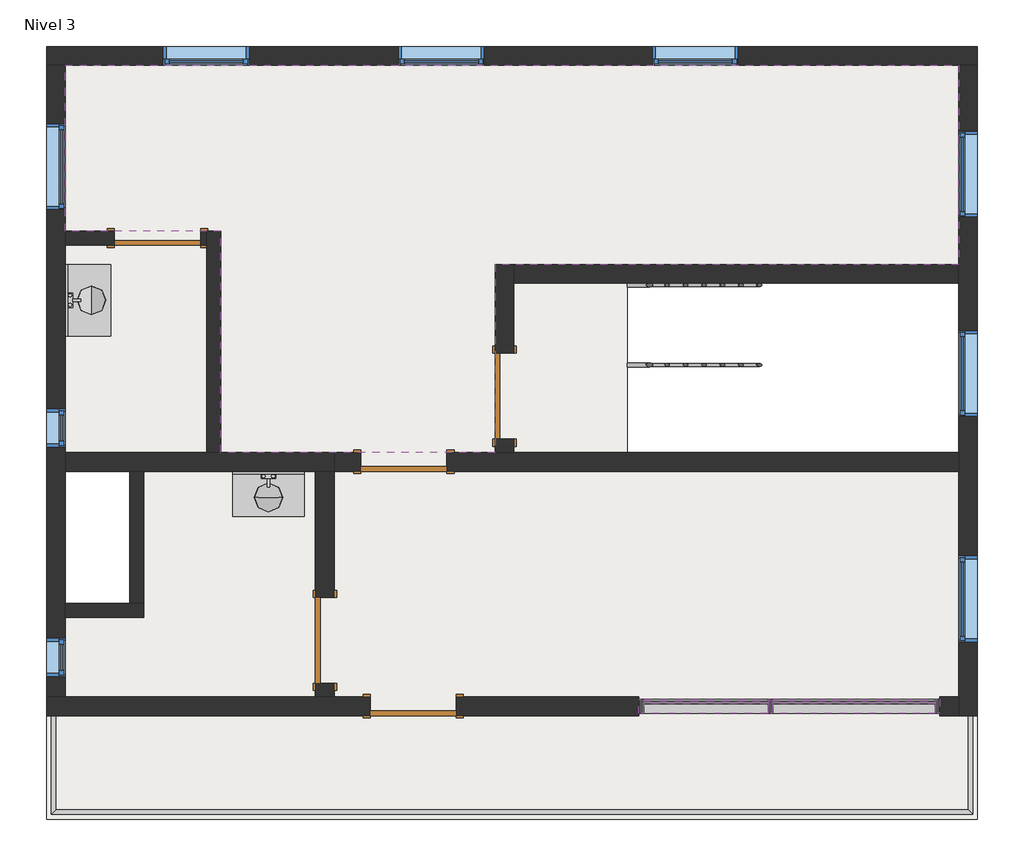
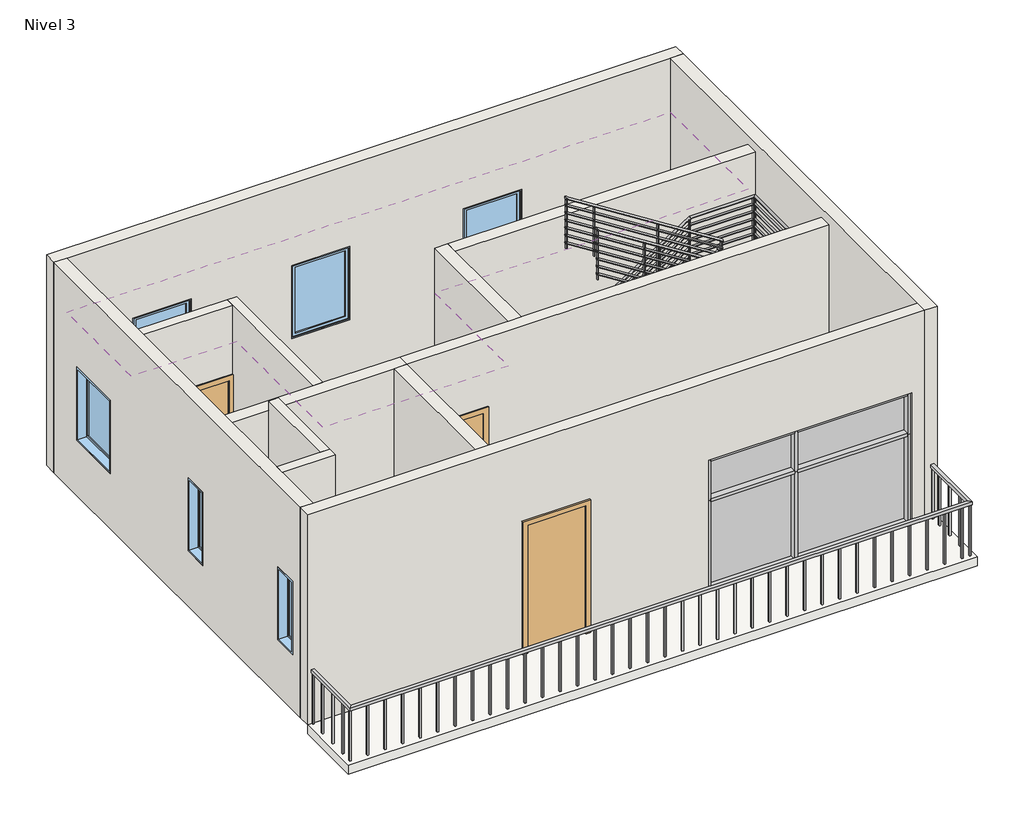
# One storey, incomplete: 13 walls, 12 members, 9 windows, 5 doors, 4 plates, 3 railings, 2 flow terminals, 1 covering, 1 slab.
"""IFC4 building model written with IfcOpenShell, lengths in millimetres."""

from ifc_helpers import new_model, si_unit, frame, origin, place, context, project, spatial, polyline, outline, extrude, faceted_brep, transform, mapped, element, save
from components import m_single_flush_0915_x_2134mm_6a9e8738, m_single_flush_0915_x_2134mm_727434cd, m_single_flush_0915_x_2134mm_f3d7f739, m_lavatory_vanity_760_mmx455_mm_private_5dea4168, rectangular_mullion_50mm_x_150mm_8ba0571e, rectangular_mullion_50mm_x_150mm_225b9777, rectangular_mullion_50mm_x_150mm_1a3ebe9d, rectangular_mullion_50mm_x_150mm_3dc27107, rectangular_mullion_50mm_x_150mm_964d2677, rectangular_mullion_50mm_x_150mm_461a195c, rectangular_mullion_50mm_x_150mm_84253eda, rectangular_mullion_50mm_x_150mm_205d2b36, system_panel_glazed_5259bb3b, system_panel_glazed_2a0213e2, system_panel_glazed_1ff09d7a, system_panel_glazed_c62e4b68, railing_900mm_pipe_946b6890, railing_900mm_pipe_91a3f817, railing_900mm_rectangular_6c18ea76, m_fixed_0406_x_1220mm_71a1fb2c, m_fixed_0915_x_1220mm_488fb2fb, m_fixed_0915_x_1220mm_5cd8e2eb

model = new_model("IFC4")

# Units and contexts
model_context = context("Model", 3, world=origin())
ifc_project = project(units=[si_unit("LENGTHUNIT", "METRE", prefix="MILLI")], contexts=[model_context])

# Site, building, storey
site = spatial("IfcSite", under=ifc_project)
building = spatial("IfcBuilding", under=site)
storey = spatial("IfcBuildingStorey", under=building, Name="Nivel 3", Elevation=7000.0)

# Covering
placement = place(None, origin())
element("IfcCovering", 1, ObjectType="600 x 1200mm grid", at=placement, inside=storey, context=model_context, shape_type="SweptSolid", body=[
    extrude(outline(polyline([(3069.2181942, -3352.0090589), (3904.2181942, -3352.0090589), (3904.2181942, -1797.0090589), (5729.2181942, -1797.0090589), (5729.2181942, -4197.0090589), (3069.2181942, -4197.0090589), (3069.2181942, -3352.0090589)])), frame((0.0, 0.0, 9600.0), z_axis=(0.0, 0.0, 1.0), x_axis=(1.0, 0.0, 0.0)), (0.0, 0.0, 1.0), 52.0),
    extrude(outline(polyline([(12569.2181942, 2522.9909411), (12569.2181942, 404.5332903), (7639.6809687, 404.5332903), (7639.6809687, -1597.0090589), (4724.2181942, -1597.0090589), (4724.2181942, 757.9909411), (3069.2181942, 757.9909411), (3069.2181942, 2522.9909411), (12569.2181942, 2522.9909411)])), frame((0.0, 0.0, 9600.0), z_axis=(0.0, 0.0, 1.0), x_axis=(1.0, 0.0, 0.0)), (0.0, 0.0, 1.0), 52.0),
    extrude(outline(polyline([(5929.2181942, -4197.0090589), (5929.2181942, -1797.0090589), (12569.2181942, -1797.0090589), (12569.2181942, -4197.0090589), (5929.2181942, -4197.0090589)])), frame((0.0, 0.0, 9600.0), z_axis=(0.0, 0.0, 1.0), x_axis=(1.0, 0.0, 0.0)), (0.0, 0.0, 1.0), 52.0),
    extrude(outline(polyline([(3069.2181942, -1597.0090589), (3069.2181942, 607.9909411), (4574.2181942, 607.9909411), (4574.2181942, -1597.0090589), (3069.2181942, -1597.0090589)])), frame((0.0, 0.0, 9600.0), z_axis=(0.0, 0.0, 1.0), x_axis=(1.0, 0.0, 0.0)), (0.0, 0.0, 1.0), 52.0),
])

# Doors
m_single_flush_0915_x_2134mm_shape = m_single_flush_0915_x_2134mm_6a9e8738(model_context)
element("IfcDoor", 2, ObjectType="M_Single-Flush : 0915 x 2134mm", at=placement, inside=storey, context=model_context, shape_type="MappedRepresentation", body=[
    mapped(m_single_flush_0915_x_2134mm_shape, transform((6769.2181942, -4297.0090589, 7000.0), x_axis=(-1.0, 0.0, 0.0), y_axis=(0.0, -1.0, 0.0), z_axis=(0.0, 0.0, 1.0))),
])
element("IfcDoor", 3, ObjectType="M_Single-Flush : 0915 x 2134mm", at=placement, inside=storey, context=model_context, shape_type="MappedRepresentation", body=[
    mapped(m_single_flush_0915_x_2134mm_shape, transform((6669.2181942, -1697.0090589, 7000.0), x_axis=(-1.0, 0.0, 0.0), y_axis=(0.0, -1.0, 0.0), z_axis=(0.0, 0.0, 1.0))),
])
m_single_flush_0915_x_2134mm_2_shape = m_single_flush_0915_x_2134mm_727434cd(model_context)
element("IfcDoor", 4, ObjectType="M_Single-Flush : 0915 x 2134mm", at=placement, inside=storey, context=model_context, shape_type="MappedRepresentation", body=[
    mapped(m_single_flush_0915_x_2134mm_2_shape, transform((5829.2181942, -3597.0090589, 7000.0), x_axis=(0.0, -1.0, 0.0), y_axis=(1.0, 0.0, 0.0), z_axis=(0.0, 0.0, 1.0))),
])
element("IfcDoor", 5, ObjectType="M_Single-Flush : 0915 x 2134mm", at=placement, inside=storey, context=model_context, shape_type="MappedRepresentation", body=[
    mapped(m_single_flush_0915_x_2134mm_2_shape, transform((7739.6809687, -997.0090589, 7000.0), x_axis=(0.0, -1.0, 0.0), y_axis=(1.0, 0.0, 0.0), z_axis=(0.0, 0.0, 1.0))),
])
m_single_flush_0915_x_2134mm_3_shape = m_single_flush_0915_x_2134mm_f3d7f739(model_context)
element("IfcDoor", 6, ObjectType="M_Single-Flush : 0915 x 2134mm", at=placement, inside=storey, context=model_context, shape_type="MappedRepresentation", body=[
    mapped(m_single_flush_0915_x_2134mm_3_shape, transform((4049.2181942, 682.9909411, 7000.0), x_axis=(1.0, 0.0, 0.0), y_axis=(0.0, 1.0, 0.0), z_axis=(0.0, 0.0, 1.0))),
])

# Flow terminals
m_lavatory_vanity_760_mmx455_mm_private_shape = m_lavatory_vanity_760_mmx455_mm_private_5dea4168(model_context)
element("IfcFlowTerminal", 7, ObjectType="M_Lavatory - Vanity : 760 mmx455 mm - Private", at=placement, inside=storey, context=model_context, shape_type="MappedRepresentation", body=[
    mapped(m_lavatory_vanity_760_mmx455_mm_private_shape, transform((5229.2181942, -1797.0090589, 7000.0), x_axis=(0.0, -1.0, 0.0), y_axis=(1.0, 0.0, 0.0), z_axis=(0.0, 0.0, 1.0))),
])
element("IfcFlowTerminal", 8, ObjectType="M_Lavatory - Vanity : 760 mmx455 mm - Private", at=placement, inside=storey, context=model_context, shape_type="MappedRepresentation", body=[
    mapped(m_lavatory_vanity_760_mmx455_mm_private_shape, transform((3069.2181942, 22.9909411, 7000.0), x_axis=(1.0, 0.0, 0.0), y_axis=(0.0, 1.0, 0.0), z_axis=(0.0, 0.0, 1.0))),
])

# Members
rectangular_mullion_50mm_x_150mm_shape = rectangular_mullion_50mm_x_150mm_8ba0571e(model_context)
element("IfcMember", 9, ObjectType="Rectangular Mullion : 50mm x 150mm", at=placement, inside=storey, context=model_context, shape_type="MappedRepresentation", body=[
    mapped(rectangular_mullion_50mm_x_150mm_shape, transform((10594.2181939, -4297.0090589, 9200.0), x_axis=(0.0, 0.0, 1.0), y_axis=(0.0, 1.0, 0.0), z_axis=(-1.0, 0.0, 0.0))),
])
rectangular_mullion_50mm_x_150mm_2_shape = rectangular_mullion_50mm_x_150mm_225b9777(model_context)
element("IfcMember", 10, ObjectType="Rectangular Mullion : 50mm x 150mm", at=placement, inside=storey, context=model_context, shape_type="MappedRepresentation", body=[
    mapped(rectangular_mullion_50mm_x_150mm_2_shape, transform((10544.2181939, -4297.0090589, 7000.0), x_axis=(0.0, 0.0, -1.0), y_axis=(0.0, 1.0, 0.0), z_axis=(1.0, 0.0, 0.0))),
])
rectangular_mullion_50mm_x_150mm_3_shape = rectangular_mullion_50mm_x_150mm_1a3ebe9d(model_context)
element("IfcMember", 11, ObjectType="Rectangular Mullion : 50mm x 150mm", at=placement, inside=storey, context=model_context, shape_type="MappedRepresentation", body=[
    mapped(rectangular_mullion_50mm_x_150mm_3_shape, transform((9219.2181942, -4297.0090589, 8500.0), x_axis=(0.0, 0.0, 1.0), y_axis=(0.0, 1.0, 0.0), z_axis=(-1.0, 0.0, 0.0))),
])
rectangular_mullion_50mm_x_150mm_4_shape = rectangular_mullion_50mm_x_150mm_3dc27107(model_context)
element("IfcMember", 12, ObjectType="Rectangular Mullion : 50mm x 150mm", at=placement, inside=storey, context=model_context, shape_type="MappedRepresentation", body=[
    mapped(rectangular_mullion_50mm_x_150mm_4_shape, transform((10594.2181939, -4297.0090589, 8500.0), x_axis=(0.0, 0.0, 1.0), y_axis=(0.0, 1.0, 0.0), z_axis=(-1.0, 0.0, 0.0))),
])
rectangular_mullion_50mm_x_150mm_5_shape = rectangular_mullion_50mm_x_150mm_964d2677(model_context)
element("IfcMember", 13, ObjectType="Rectangular Mullion : 50mm x 150mm", at=placement, inside=storey, context=model_context, shape_type="MappedRepresentation", body=[
    mapped(rectangular_mullion_50mm_x_150mm_5_shape, transform((10569.2181939, -4297.0090589, 7000.0), x_axis=(-1.0, 0.0, 0.0), y_axis=(0.0, 1.0, 0.0), z_axis=(0.0, 0.0, -1.0))),
])
element("IfcMember", 14, ObjectType="Rectangular Mullion : 50mm x 150mm", at=placement, inside=storey, context=model_context, shape_type="MappedRepresentation", body=[
    mapped(rectangular_mullion_50mm_x_150mm_shape, transform((12319.2181942, -4297.0090589, 7000.0), x_axis=(0.0, 0.0, -1.0), y_axis=(0.0, 1.0, 0.0), z_axis=(1.0, 0.0, 0.0))),
])
element("IfcMember", 15, ObjectType="Rectangular Mullion : 50mm x 150mm", at=placement, inside=storey, context=model_context, shape_type="MappedRepresentation", body=[
    mapped(rectangular_mullion_50mm_x_150mm_2_shape, transform((9219.2181942, -4297.0090589, 9200.0), x_axis=(0.0, 0.0, 1.0), y_axis=(0.0, 1.0, 0.0), z_axis=(-1.0, 0.0, 0.0))),
])
rectangular_mullion_50mm_x_150mm_6_shape = rectangular_mullion_50mm_x_150mm_461a195c(model_context)
element("IfcMember", 16, ObjectType="Rectangular Mullion : 50mm x 150mm", at=placement, inside=storey, context=model_context, shape_type="MappedRepresentation", body=[
    mapped(rectangular_mullion_50mm_x_150mm_6_shape, transform((12369.2181942, -4297.0090589, 8500.0), x_axis=(1.0, 0.0, 0.0), y_axis=(0.0, 1.0, 0.0), z_axis=(0.0, 0.0, 1.0))),
])
element("IfcMember", 17, ObjectType="Rectangular Mullion : 50mm x 150mm", at=placement, inside=storey, context=model_context, shape_type="MappedRepresentation", body=[
    mapped(rectangular_mullion_50mm_x_150mm_6_shape, transform((9169.2181942, -4297.0090589, 7000.0), x_axis=(-1.0, 0.0, 0.0), y_axis=(0.0, 1.0, 0.0), z_axis=(0.0, 0.0, -1.0))),
])
rectangular_mullion_50mm_x_150mm_7_shape = rectangular_mullion_50mm_x_150mm_84253eda(model_context)
element("IfcMember", 18, ObjectType="Rectangular Mullion : 50mm x 150mm", at=placement, inside=storey, context=model_context, shape_type="MappedRepresentation", body=[
    mapped(rectangular_mullion_50mm_x_150mm_7_shape, transform((10569.2181939, -4297.0090589, 8500.0), x_axis=(-1.0, 0.0, 0.0), y_axis=(0.0, 1.0, 0.0), z_axis=(0.0, 0.0, -1.0))),
])
rectangular_mullion_50mm_x_150mm_8_shape = rectangular_mullion_50mm_x_150mm_205d2b36(model_context)
element("IfcMember", 19, ObjectType="Rectangular Mullion : 50mm x 150mm", at=placement, inside=storey, context=model_context, shape_type="MappedRepresentation", body=[
    mapped(rectangular_mullion_50mm_x_150mm_8_shape, transform((9169.2181942, -4297.0090589, 8500.0), x_axis=(-1.0, 0.0, 0.0), y_axis=(0.0, 1.0, 0.0), z_axis=(0.0, 0.0, -1.0))),
])
element("IfcMember", 20, ObjectType="Rectangular Mullion : 50mm x 150mm", at=placement, inside=storey, context=model_context, shape_type="MappedRepresentation", body=[
    mapped(rectangular_mullion_50mm_x_150mm_8_shape, transform((12369.2181942, -4297.0090589, 9200.0), x_axis=(1.0, 0.0, 0.0), y_axis=(0.0, 1.0, 0.0), z_axis=(0.0, 0.0, 1.0))),
])

# Plates
system_panel_glazed_shape = system_panel_glazed_5259bb3b(model_context)
element("IfcPlate", 21, ObjectType="System Panel : Glazed", at=placement, inside=storey, context=model_context, shape_type="MappedRepresentation", body=[
    mapped(system_panel_glazed_shape, transform((11456.718194, -4297.0090589, 7050.0), x_axis=(-1.0, 0.0, 0.0), y_axis=(0.0, -1.0, 0.0), z_axis=(0.0, 0.0, 1.0))),
])
system_panel_glazed_2_shape = system_panel_glazed_2a0213e2(model_context)
element("IfcPlate", 22, ObjectType="System Panel : Glazed", at=placement, inside=storey, context=model_context, shape_type="MappedRepresentation", body=[
    mapped(system_panel_glazed_2_shape, transform((9881.718194, -4297.0090589, 7050.0), x_axis=(-1.0, 0.0, 0.0), y_axis=(0.0, -1.0, 0.0), z_axis=(0.0, 0.0, 1.0))),
])
system_panel_glazed_3_shape = system_panel_glazed_1ff09d7a(model_context)
element("IfcPlate", 23, ObjectType="System Panel : Glazed", at=placement, inside=storey, context=model_context, shape_type="MappedRepresentation", body=[
    mapped(system_panel_glazed_3_shape, transform((11456.718194, -4297.0090589, 8525.0), x_axis=(-1.0, 0.0, 0.0), y_axis=(0.0, -1.0, 0.0), z_axis=(0.0, 0.0, 1.0))),
])
system_panel_glazed_4_shape = system_panel_glazed_c62e4b68(model_context)
element("IfcPlate", 24, ObjectType="System Panel : Glazed", at=placement, inside=storey, context=model_context, shape_type="MappedRepresentation", body=[
    mapped(system_panel_glazed_4_shape, transform((9881.718194, -4297.0090589, 8525.0), x_axis=(-1.0, 0.0, 0.0), y_axis=(0.0, -1.0, 0.0), z_axis=(0.0, 0.0, 1.0))),
])

# Railings
railing_900mm_pipe_shape = railing_900mm_pipe_946b6890(model_context)
element("IfcRailing", 25, ObjectType="900mm Pipe", at=placement, inside=storey, context=model_context, shape_type="MappedRepresentation", body=[
    mapped(railing_900mm_pipe_shape, transform((0.0, 0.0, 0.0), x_axis=(1.0, 0.0, 0.0), y_axis=(0.0, 1.0, 0.0), z_axis=(0.0, 0.0, 1.0))),
])
railing_900mm_pipe_2_shape = railing_900mm_pipe_91a3f817(model_context)
element("IfcRailing", 26, ObjectType="900mm Pipe", at=placement, inside=storey, context=model_context, shape_type="MappedRepresentation", body=[
    mapped(railing_900mm_pipe_2_shape, transform((0.0, 0.0, 0.0), x_axis=(1.0, 0.0, 0.0), y_axis=(0.0, 1.0, 0.0), z_axis=(0.0, 0.0, 1.0))),
])
railing_900mm_rectangular_shape = railing_900mm_rectangular_6c18ea76(model_context)
element("IfcRailing", 27, ObjectType="900mm Rectangular", at=placement, inside=storey, context=model_context, shape_type="MappedRepresentation", body=[
    mapped(railing_900mm_rectangular_shape, transform((0.0, 0.0, 0.0), x_axis=(1.0, 0.0, 0.0), y_axis=(0.0, 1.0, 0.0), z_axis=(0.0, 0.0, 1.0))),
])

# Slab
element("IfcSlab", 28, ObjectType="Generic Floor - 400mm", at=placement, inside=storey, context=model_context, shape_type="SweptSolid", body=[
    extrude(outline(polyline([(12769.2181942, -5497.0090589), (2869.2181942, -5497.0090589), (2869.2181942, -4397.0090589), (3069.2181942, -4397.0090589), (3069.2181942, -3202.0090589), (3754.2181942, -3202.0090589), (3754.2181942, -1797.0090589), (3069.2181942, -1797.0090589), (3069.2181942, 2522.9909411), (12569.2181942, 2522.9909411), (12569.2181942, 204.5332903), (9044.2181942, 204.5332903), (9044.2181942, -1597.0090589), (12569.2181942, -1597.0090589), (12569.2181942, -4397.0090589), (12769.2181942, -4397.0090589), (12769.2181942, -5497.0090589)])), frame((0.0, 0.0, 6850.0), z_axis=(0.0, 0.0, 1.0), x_axis=(1.0, 0.0, 0.0)), (0.0, 0.0, 1.0), 150.0),
])

# Walls
element("IfcWall", 29, ObjectType="Generic - 150mm", at=placement, inside=storey, context=model_context, shape_type="SweptSolid", body=[
    extrude(outline(polyline([(3754.2181942, -3202.0090589), (3754.2181942, -1797.0090589), (3904.2181942, -1797.0090589), (3904.2181942, -3202.0090589), (3754.2181942, -3202.0090589)])), frame((0.0, 0.0, 7000.0), z_axis=(0.0, 0.0, 1.0), x_axis=(1.0, 0.0, 0.0)), (0.0, 0.0, 1.0), 3500.0),
])
element("IfcWall", 30, ObjectType="Generic - 150mm", at=placement, inside=storey, context=model_context, shape_type="Brep", body=[
    faceted_brep([(4724.2181942, -1597.0090589, 7000.0), (4724.2181942, 757.9909411, 7000.0), (4724.2181942, 757.9909411, 10350.0), (4724.2181942, -1597.0090589, 10350.0), (4574.2181942, -1597.0090589, 7000.0), (4574.2181942, -1597.0090589, 10350.0), (4574.2181942, 607.9909411, 10350.0), (4574.2181942, 757.9909411, 10350.0), (4574.2181942, 757.9909411, 7000.0), (4574.2181942, 607.9909411, 7000.0)], [[[0, 1, 2, 3]], [[4, 5, 6, 7, 8, 9]], [[1, 0, 4, 9, 8]], [[3, 2, 7, 6, 5]], [[2, 1, 8, 7]], [[0, 3, 5, 4]]]),
])
element("IfcWall", 31, ObjectType="Generic - 150mm", at=placement, inside=storey, context=model_context, shape_type="SweptSolid", body=[
    extrude(outline(polyline([(9134.0, 4506.7181942), (7000.0, 4506.7181942), (7000.0, 4574.2181942), (10350.0, 4574.2181942), (10350.0, 3069.2181942), (7000.0, 3069.2181942), (7000.0, 3591.7181942), (9134.0, 3591.7181942), (9134.0, 4506.7181942)])), frame((0.0, 607.9909411, 0.0), z_axis=(0.0, 1.0, 0.0), x_axis=(0.0, 0.0, 1.0)), (0.0, 0.0, 1.0), 150.0),
])
element("IfcWall", 32, ObjectType="Generic - 150mm", at=placement, inside=storey, context=model_context, shape_type="Brep", body=[
    faceted_brep([(3069.2181942, -3352.0090589, 7000.0), (3904.2181942, -3352.0090589, 7000.0), (3904.2181942, -3352.0090589, 10500.0), (3069.2181942, -3352.0090589, 10500.0), (3069.2181942, -3202.0090589, 7000.0), (3069.2181942, -3202.0090589, 10500.0), (3754.2181942, -3202.0090589, 10500.0), (3904.2181942, -3202.0090589, 10500.0), (3904.2181942, -3202.0090589, 7000.0), (3754.2181942, -3202.0090589, 7000.0)], [[[0, 1, 2, 3]], [[4, 5, 6, 7, 8, 9]], [[1, 0, 4, 9, 8]], [[3, 2, 7, 6, 5]], [[0, 3, 5, 4]], [[2, 1, 8, 7]]]),
])
element("IfcWall", 33, ObjectType="Generic - 200mm", at=placement, inside=storey, context=model_context, shape_type="Brep", body=[
    faceted_brep([(12769.2181942, 2722.9909411, 7000.0), (2869.2181942, 2722.9909411, 7000.0), (2869.2181942, 2722.9909411, 10500.0), (12769.2181942, 2722.9909411, 10500.0), (9311.7181942, 2722.9909411, 7915.0), (10226.7181942, 2722.9909411, 7915.0), (10226.7181942, 2722.9909411, 9135.0), (9311.7181942, 2722.9909411, 9135.0), (6611.7181942, 2722.9909411, 7915.0), (7526.7181942, 2722.9909411, 7915.0), (7526.7181942, 2722.9909411, 9135.0), (6611.7181942, 2722.9909411, 9135.0), (5026.7181942, 2722.9909411, 7915.0), (5026.7181942, 2722.9909411, 9135.0), (4111.7181942, 2722.9909411, 9135.0), (4111.7181942, 2722.9909411, 7915.0), (12769.2181942, 2522.9909411, 7000.0), (12769.2181942, 2522.9909411, 10500.0), (12569.2181942, 2522.9909411, 10500.0), (3069.2181942, 2522.9909411, 10500.0), (2869.2181942, 2522.9909411, 10500.0), (2869.2181942, 2522.9909411, 7000.0), (3069.2181942, 2522.9909411, 7000.0), (12569.2181942, 2522.9909411, 7000.0), (9311.7181942, 2522.9909411, 7915.0), (9311.7181942, 2522.9909411, 9135.0), (10226.7181942, 2522.9909411, 9135.0), (10226.7181942, 2522.9909411, 7915.0), (6611.7181942, 2522.9909411, 7915.0), (6611.7181942, 2522.9909411, 9135.0), (7526.7181942, 2522.9909411, 9135.0), (7526.7181942, 2522.9909411, 7915.0), (5026.7181942, 2522.9909411, 7915.0), (4111.7181942, 2522.9909411, 7915.0), (4111.7181942, 2522.9909411, 9135.0), (5026.7181942, 2522.9909411, 9135.0)], [[[0, 1, 2, 3], [4, 5, 6, 7], [8, 9, 10, 11], [12, 13, 14, 15]], [[16, 17, 18, 19, 20, 21, 22, 23], [24, 25, 26, 27], [28, 29, 30, 31], [32, 33, 34, 35]], [[1, 0, 16, 23, 22, 21]], [[3, 2, 20, 19, 18, 17]], [[0, 3, 17, 16]], [[25, 24, 4, 7]], [[26, 25, 7, 6]], [[27, 26, 6, 5]], [[24, 27, 5, 4]], [[29, 28, 8, 11]], [[30, 29, 11, 10]], [[31, 30, 10, 9]], [[28, 31, 9, 8]], [[13, 12, 32, 35]], [[14, 13, 35, 34]], [[15, 14, 34, 33]], [[12, 15, 33, 32]], [[2, 1, 21, 20]]]),
])
element("IfcWall", 34, ObjectType="Generic - 200mm", at=placement, inside=storey, context=model_context, shape_type="Brep", body=[
    faceted_brep([(12769.2181942, -4397.0090589, 7000.0), (12769.2181942, 2522.9909411, 7000.0), (12769.2181942, 2522.9909411, 10500.0), (12769.2181942, -4397.0090589, 10500.0), (12769.2181942, -3614.5090589, 7915.0), (12769.2181942, -3614.5090589, 9135.0), (12769.2181942, -2699.5090589, 9135.0), (12769.2181942, -2699.5090589, 7915.0), (12769.2181942, -1214.5090589, 7915.0), (12769.2181942, -1214.5090589, 9135.0), (12769.2181942, -299.5090589, 9135.0), (12769.2181942, -299.5090589, 7915.0), (12769.2181942, 905.4909411, 7915.0), (12769.2181942, 905.4909411, 9135.0), (12769.2181942, 1820.4909411, 9135.0), (12769.2181942, 1820.4909411, 7915.0), (12569.2181942, -4397.0090589, 7000.0), (12569.2181942, -4397.0090589, 10500.0), (12569.2181942, -4197.0090589, 10500.0), (12569.2181942, 2522.9909411, 10500.0), (12569.2181942, 2522.9909411, 7000.0), (12569.2181942, 404.5332903, 7000.0), (12569.2181942, 204.5332903, 7000.0), (12569.2181942, -1597.0090589, 7000.0), (12569.2181942, -1797.0090589, 7000.0), (12569.2181942, -4197.0090589, 7000.0), (12569.2181942, -3614.5090589, 7915.0), (12569.2181942, -2699.5090589, 7915.0), (12569.2181942, -2699.5090589, 9135.0), (12569.2181942, -3614.5090589, 9135.0), (12569.2181942, -1214.5090589, 7915.0), (12569.2181942, -299.5090589, 7915.0), (12569.2181942, -299.5090589, 9135.0), (12569.2181942, -1214.5090589, 9135.0), (12569.2181942, 905.4909411, 7915.0), (12569.2181942, 1820.4909411, 7915.0), (12569.2181942, 1820.4909411, 9135.0), (12569.2181942, 905.4909411, 9135.0)], [[[0, 1, 2, 3], [4, 5, 6, 7], [8, 9, 10, 11], [12, 13, 14, 15]], [[16, 17, 18, 19, 20, 21, 22, 23, 24, 25], [26, 27, 28, 29], [30, 31, 32, 33], [34, 35, 36, 37]], [[1, 0, 16, 25, 24, 23, 22, 21, 20]], [[3, 2, 19, 18, 17]], [[0, 3, 17, 16]], [[2, 1, 20, 19]], [[5, 4, 26, 29]], [[6, 5, 29, 28]], [[7, 6, 28, 27]], [[4, 7, 27, 26]], [[9, 8, 30, 33]], [[10, 9, 33, 32]], [[11, 10, 32, 31]], [[8, 11, 31, 30]], [[13, 12, 34, 37]], [[14, 13, 37, 36]], [[15, 14, 36, 35]], [[12, 15, 35, 34]]]),
])
element("IfcWall", 35, ObjectType="Generic - 200mm", at=placement, inside=storey, context=model_context, shape_type="Brep", body=[
    faceted_brep([(2869.2181942, -4397.0090589, 7000.0), (6311.7181942, -4397.0090589, 7000.0), (6311.7181942, -4397.0090589, 9134.0), (7226.7181942, -4397.0090589, 9134.0), (7226.7181942, -4397.0090589, 7000.0), (9169.2181942, -4397.0090589, 7000.0), (9169.2181942, -4397.0090589, 9200.0), (12369.2181942, -4397.0090589, 9200.0), (12369.2181942, -4397.0090589, 7000.0), (12569.2181942, -4397.0090589, 7000.0), (12569.2181942, -4397.0090589, 10500.0), (2869.2181942, -4397.0090589, 10500.0), (6311.7181942, -4197.0090589, 9134.0), (6311.7181942, -4197.0090589, 7000.0), (5929.2181942, -4197.0090589, 7000.0), (5729.2181942, -4197.0090589, 7000.0), (3069.2181942, -4197.0090589, 7000.0), (2869.2181942, -4197.0090589, 7000.0), (2869.2181942, -4197.0090589, 10500.0), (3069.2181942, -4197.0090589, 10500.0), (12569.2181942, -4197.0090589, 10500.0), (12569.2181942, -4197.0090589, 7000.0), (12369.2181942, -4197.0090589, 7000.0), (12369.2181942, -4197.0090589, 9200.0), (9169.2181942, -4197.0090589, 9200.0), (9169.2181942, -4197.0090589, 7000.0), (7226.7181942, -4197.0090589, 7000.0), (7226.7181942, -4197.0090589, 9134.0)], [[[0, 1, 2, 3, 4, 5, 6, 7, 8, 9, 10, 11]], [[12, 13, 14, 15, 16, 17, 18, 19, 20, 21, 22, 23, 24, 25, 26, 27]], [[21, 9, 8, 22]], [[26, 25, 5, 4]], [[17, 16, 15, 14, 13, 1, 0]], [[11, 10, 20, 19, 18]], [[10, 9, 21, 20]], [[0, 11, 18, 17]], [[7, 23, 22, 8]], [[23, 7, 6, 24]], [[24, 6, 5, 25]], [[2, 1, 13, 12]], [[3, 2, 12, 27]], [[4, 3, 27, 26]]]),
])
element("IfcWall", 36, ObjectType="Generic - 200mm", at=placement, inside=storey, context=model_context, shape_type="Brep", body=[
    faceted_brep([(2869.2181942, 2522.9909411, 7000.0), (2869.2181942, -4197.0090589, 7000.0), (2869.2181942, -4197.0090589, 10500.0), (2869.2181942, 2522.9909411, 10500.0), (2869.2181942, -1134.0090589, 7915.0), (2869.2181942, -1134.0090589, 9135.0), (2869.2181942, -1540.0090589, 9135.0), (2869.2181942, -1540.0090589, 7915.0), (2869.2181942, 1900.4909411, 7915.0), (2869.2181942, 1900.4909411, 9135.0), (2869.2181942, 985.4909411, 9135.0), (2869.2181942, 985.4909411, 7915.0), (2869.2181942, -3574.0090589, 7915.0), (2869.2181942, -3574.0090589, 9135.0), (2869.2181942, -3980.0090589, 9135.0), (2869.2181942, -3980.0090589, 7915.0), (3069.2181942, 2522.9909411, 7000.0), (3069.2181942, 2522.9909411, 10500.0), (3069.2181942, -3202.0090589, 10500.0), (3069.2181942, -3352.0090589, 10500.0), (3069.2181942, -4197.0090589, 10500.0), (3069.2181942, -4197.0090589, 7000.0), (3069.2181942, -3352.0090589, 7000.0), (3069.2181942, -3202.0090589, 7000.0), (3069.2181942, -1797.0090589, 7000.0), (3069.2181942, -1597.0090589, 7000.0), (3069.2181942, 607.9909411, 7000.0), (3069.2181942, 757.9909411, 7000.0), (3069.2181942, -1134.0090589, 7915.0), (3069.2181942, -1540.0090589, 7915.0), (3069.2181942, -1540.0090589, 9135.0), (3069.2181942, -1134.0090589, 9135.0), (3069.2181942, 1900.4909411, 7915.0), (3069.2181942, 985.4909411, 7915.0), (3069.2181942, 985.4909411, 9135.0), (3069.2181942, 1900.4909411, 9135.0), (3069.2181942, -3574.0090589, 7915.0), (3069.2181942, -3980.0090589, 7915.0), (3069.2181942, -3980.0090589, 9135.0), (3069.2181942, -3574.0090589, 9135.0)], [[[0, 1, 2, 3], [4, 5, 6, 7], [8, 9, 10, 11], [12, 13, 14, 15]], [[16, 17, 18, 19, 20, 21, 22, 23, 24, 25, 26, 27], [28, 29, 30, 31], [32, 33, 34, 35], [36, 37, 38, 39]], [[1, 0, 16, 27, 26, 25, 24, 23, 22, 21]], [[3, 2, 20, 19, 18, 17]], [[0, 3, 17, 16]], [[2, 1, 21, 20]], [[5, 4, 28, 31]], [[6, 5, 31, 30]], [[7, 6, 30, 29]], [[4, 7, 29, 28]], [[9, 8, 32, 35]], [[10, 9, 35, 34]], [[11, 10, 34, 33]], [[8, 11, 33, 32]], [[13, 12, 36, 39]], [[14, 13, 39, 38]], [[15, 14, 38, 37]], [[12, 15, 37, 36]]]),
])
element("IfcWall", 37, ObjectType="Generic - 200mm", at=placement, inside=storey, context=model_context, shape_type="SweptSolid", body=[
    extrude(outline(polyline([(-4054.5090589, 9134.0), (-4054.5090589, 7000.0), (-4197.0090589, 7000.0), (-4197.0090589, 10350.0), (-1797.0090589, 10350.0), (-1797.0090589, 7000.0), (-3139.5090589, 7000.0), (-3139.5090589, 9134.0), (-4054.5090589, 9134.0)])), frame((5729.2181942, 0.0, 0.0), z_axis=(1.0, 0.0, 0.0), x_axis=(0.0, 1.0, 0.0)), (0.0, 0.0, 1.0), 200.0),
])
element("IfcWall", 38, ObjectType="Generic - 200mm", at=placement, inside=storey, context=model_context, shape_type="Brep", body=[
    faceted_brep([(5929.2181942, -1597.0090589, 7000.0), (4724.2181942, -1597.0090589, 7000.0), (4574.2181942, -1597.0090589, 7000.0), (3069.2181942, -1597.0090589, 7000.0), (3069.2181942, -1597.0090589, 10350.0), (4574.2181942, -1597.0090589, 10350.0), (4724.2181942, -1597.0090589, 10350.0), (5929.2181942, -1597.0090589, 10350.0), (5929.2181942, -1797.0090589, 7000.0), (5929.2181942, -1797.0090589, 10350.0), (5729.2181942, -1797.0090589, 10350.0), (3069.2181942, -1797.0090589, 10350.0), (3069.2181942, -1797.0090589, 7000.0), (3754.2181942, -1797.0090589, 7000.0), (3904.2181942, -1797.0090589, 7000.0), (5729.2181942, -1797.0090589, 7000.0)], [[[0, 1, 2, 3, 4, 5, 6, 7]], [[8, 9, 10, 11, 12, 13, 14, 15]], [[3, 2, 1, 0, 8, 15, 14, 13, 12]], [[7, 6, 5, 4, 11, 10, 9]], [[4, 3, 12, 11]], [[0, 7, 9, 8]]]),
])
element("IfcWall", 39, ObjectType="Generic - 200mm", at=placement, inside=storey, context=model_context, shape_type="Brep", body=[
    faceted_brep([(6211.7181942, -1597.0090589, 9134.0), (6211.7181942, -1597.0090589, 7000.0), (5929.2181942, -1597.0090589, 7000.0), (5929.2181942, -1597.0090589, 10350.0), (7639.6809687, -1597.0090589, 10350.0), (7839.6809687, -1597.0090589, 10350.0), (12569.2181942, -1597.0090589, 10350.0), (12569.2181942, -1597.0090589, 7000.0), (7839.6809687, -1597.0090589, 7000.0), (7639.6809687, -1597.0090589, 7000.0), (7126.7181942, -1597.0090589, 7000.0), (7126.7181942, -1597.0090589, 9134.0), (5929.2181942, -1797.0090589, 7000.0), (6211.7181942, -1797.0090589, 7000.0), (6211.7181942, -1797.0090589, 9134.0), (7126.7181942, -1797.0090589, 9134.0), (7126.7181942, -1797.0090589, 7000.0), (12569.2181942, -1797.0090589, 7000.0), (12569.2181942, -1797.0090589, 10350.0), (5929.2181942, -1797.0090589, 10350.0)], [[[0, 1, 2, 3, 4, 5, 6, 7, 8, 9, 10, 11]], [[12, 13, 14, 15, 16, 17, 18, 19]], [[2, 1, 13, 12]], [[10, 9, 8, 7, 17, 16]], [[6, 5, 4, 3, 19, 18]], [[14, 13, 1, 0]], [[15, 14, 0, 11]], [[16, 15, 11, 10]], [[7, 6, 18, 17]], [[3, 2, 12, 19]]]),
])
element("IfcWall", 40, ObjectType="Generic - 200mm", at=placement, inside=storey, context=model_context, shape_type="SweptSolid", body=[
    extrude(outline(polyline([(7839.6809687, 404.5332903), (12569.2181942, 404.5332903), (12569.2181942, 204.5332903), (7839.6809687, 204.5332903), (7839.6809687, 404.5332903)])), frame((0.0, 0.0, 7000.0), z_axis=(0.0, 0.0, 1.0), x_axis=(1.0, 0.0, 0.0)), (0.0, 0.0, 1.0), 3350.0),
])
element("IfcWall", 41, ObjectType="Generic - 200mm", at=placement, inside=storey, context=model_context, shape_type="Brep", body=[
    faceted_brep([(7639.6809687, -1454.5090589, 9134.0), (7639.6809687, -1454.5090589, 7000.0), (7639.6809687, -1597.0090589, 7000.0), (7639.6809687, -1597.0090589, 10350.0), (7639.6809687, 404.5332903, 10350.0), (7639.6809687, 404.5332903, 7000.0), (7639.6809687, -539.5090589, 7000.0), (7639.6809687, -539.5090589, 9134.0), (7839.6809687, -1597.0090589, 7000.0), (7839.6809687, -1454.5090589, 7000.0), (7839.6809687, -1454.5090589, 9134.0), (7839.6809687, -539.5090589, 9134.0), (7839.6809687, -539.5090589, 7000.0), (7839.6809687, 204.5332903, 7000.0), (7839.6809687, 404.5332903, 7000.0), (7839.6809687, 404.5332903, 10350.0), (7839.6809687, 204.5332903, 10350.0), (7839.6809687, -1597.0090589, 10350.0)], [[[0, 1, 2, 3, 4, 5, 6, 7]], [[8, 9, 10, 11, 12, 13, 14, 15, 16, 17]], [[6, 5, 14, 13, 12]], [[2, 1, 9, 8]], [[4, 3, 17, 16, 15]], [[10, 9, 1, 0]], [[11, 10, 0, 7]], [[12, 11, 7, 6]], [[3, 2, 8, 17]], [[5, 4, 15, 14]]]),
])

# Windows
m_fixed_0406_x_1220mm_shape = m_fixed_0406_x_1220mm_71a1fb2c(model_context)
element("IfcWindow", 42, ObjectType="M_Fixed : 0406 x 1220mm", at=placement, inside=storey, context=model_context, shape_type="MappedRepresentation", body=[
    mapped(m_fixed_0406_x_1220mm_shape, transform((2956.2181942, -1337.0090589, 7000.0), x_axis=(0.0, -1.0, 0.0), y_axis=(1.0, 0.0, 0.0), z_axis=(0.0, 0.0, 1.0))),
])
element("IfcWindow", 43, ObjectType="M_Fixed : 0406 x 1220mm", at=placement, inside=storey, context=model_context, shape_type="MappedRepresentation", body=[
    mapped(m_fixed_0406_x_1220mm_shape, transform((2956.2181942, -3777.0090589, 7000.0), x_axis=(0.0, -1.0, 0.0), y_axis=(1.0, 0.0, 0.0), z_axis=(0.0, 0.0, 1.0))),
])
m_fixed_0915_x_1220mm_shape = m_fixed_0915_x_1220mm_488fb2fb(model_context)
element("IfcWindow", 44, ObjectType="M_Fixed : 0915 x 1220mm", at=placement, inside=storey, context=model_context, shape_type="MappedRepresentation", body=[
    mapped(m_fixed_0915_x_1220mm_shape, transform((12682.2181942, -3157.0090589, 7000.0), x_axis=(0.0, 1.0, 0.0), y_axis=(-1.0, 0.0, 0.0), z_axis=(0.0, 0.0, 1.0))),
])
element("IfcWindow", 45, ObjectType="M_Fixed : 0915 x 1220mm", at=placement, inside=storey, context=model_context, shape_type="MappedRepresentation", body=[
    mapped(m_fixed_0915_x_1220mm_shape, transform((12682.2181942, -757.0090589, 7000.0), x_axis=(0.0, 1.0, 0.0), y_axis=(-1.0, 0.0, 0.0), z_axis=(0.0, 0.0, 1.0))),
])
element("IfcWindow", 46, ObjectType="M_Fixed : 0915 x 1220mm", at=placement, inside=storey, context=model_context, shape_type="MappedRepresentation", body=[
    mapped(m_fixed_0915_x_1220mm_shape, transform((12682.2181942, 1362.9909411, 7000.0), x_axis=(0.0, 1.0, 0.0), y_axis=(-1.0, 0.0, 0.0), z_axis=(0.0, 0.0, 1.0))),
])
element("IfcWindow", 47, ObjectType="M_Fixed : 0915 x 1220mm", at=placement, inside=storey, context=model_context, shape_type="MappedRepresentation", body=[
    mapped(m_fixed_0915_x_1220mm_shape, transform((4569.2181942, 2635.9909411, 7000.0), x_axis=(-1.0, 0.0, 0.0), y_axis=(0.0, -1.0, 0.0), z_axis=(0.0, 0.0, 1.0))),
])
element("IfcWindow", 48, ObjectType="M_Fixed : 0915 x 1220mm", at=placement, inside=storey, context=model_context, shape_type="MappedRepresentation", body=[
    mapped(m_fixed_0915_x_1220mm_shape, transform((2956.2181942, 1442.9909411, 7000.0), x_axis=(0.0, -1.0, 0.0), y_axis=(1.0, 0.0, 0.0), z_axis=(0.0, 0.0, 1.0))),
])
m_fixed_0915_x_1220mm_2_shape = m_fixed_0915_x_1220mm_5cd8e2eb(model_context)
element("IfcWindow", 49, ObjectType="M_Fixed : 0915 x 1220mm", at=placement, inside=storey, context=model_context, shape_type="MappedRepresentation", body=[
    mapped(m_fixed_0915_x_1220mm_2_shape, transform((9769.2181942, 2635.9909411, 7000.0), x_axis=(1.0, 0.0, 0.0), y_axis=(0.0, 1.0, 0.0), z_axis=(0.0, 0.0, 1.0))),
])
element("IfcWindow", 50, ObjectType="M_Fixed : 0915 x 1220mm", at=placement, inside=storey, context=model_context, shape_type="MappedRepresentation", body=[
    mapped(m_fixed_0915_x_1220mm_2_shape, transform((7069.2181942, 2635.9909411, 7000.0), x_axis=(1.0, 0.0, 0.0), y_axis=(0.0, 1.0, 0.0), z_axis=(0.0, 0.0, 1.0))),
])

save(model, "model.ifc")
